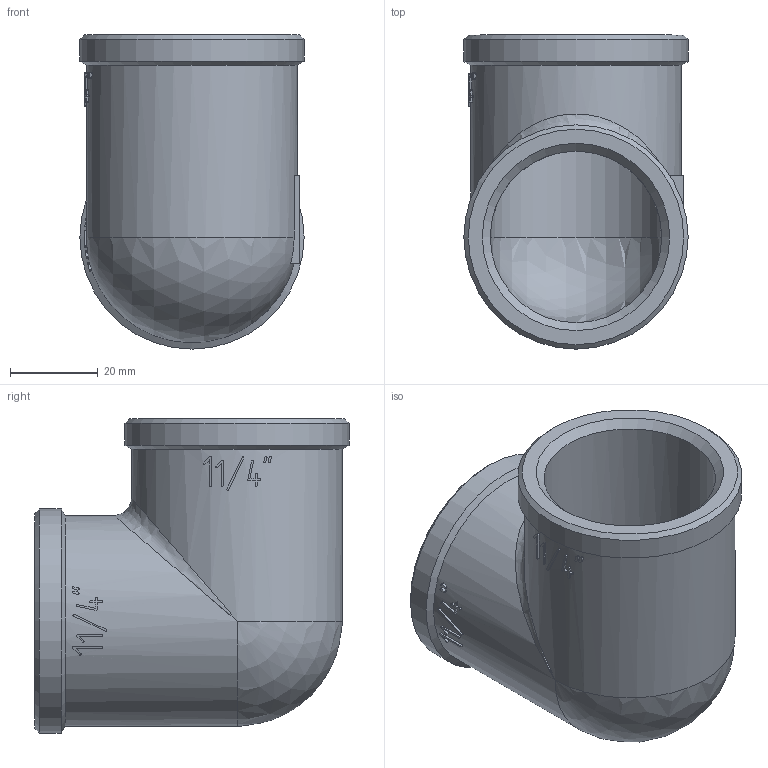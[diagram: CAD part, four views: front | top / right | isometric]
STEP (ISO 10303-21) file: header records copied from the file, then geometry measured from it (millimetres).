
FILE_DESCRIPTION(('STEP AP203'), '1');
FILE_NAME('ÂÐ.752213.004 - VTr.090.N.0007 - Ôèò. ðåçüá. óãîë', '2024-06-19T11:42:44', ('Boss'), (''), 'C3D Converter', 'C3D Toolkit', '');
FILE_SCHEMA(('CONFIG_CONTROL_DESIGN'));
Length unit declared in the file: millimetre
Products named in the file (1): ВР.752213.004
Bounding box: 51 x 71.5 x 71.5 mm (x, y, z)
Volume: 57604.3 mm3; surface area: 26169.3 mm2
Topology: 1 solids, 1 shells, 239 faces, 666 edges, 439 vertices
Faces by surface type: extrusion 126, plane 85, cylinder 19, cone 6, sphere 2, bspline 1
Full cylindrical faces by diameter (mm): 39 x2, 48 x2, 51 x2
Entity records: 10161 total; most frequent: CARTESIAN_POINT 4791, ORIENTED_EDGE 1300, DIRECTION 699, EDGE_CURVE 650, VERTEX_POINT 439, VECTOR 391, B_SPLINE_CURVE_WITH_KNOTS 384, EDGE_LOOP 267
